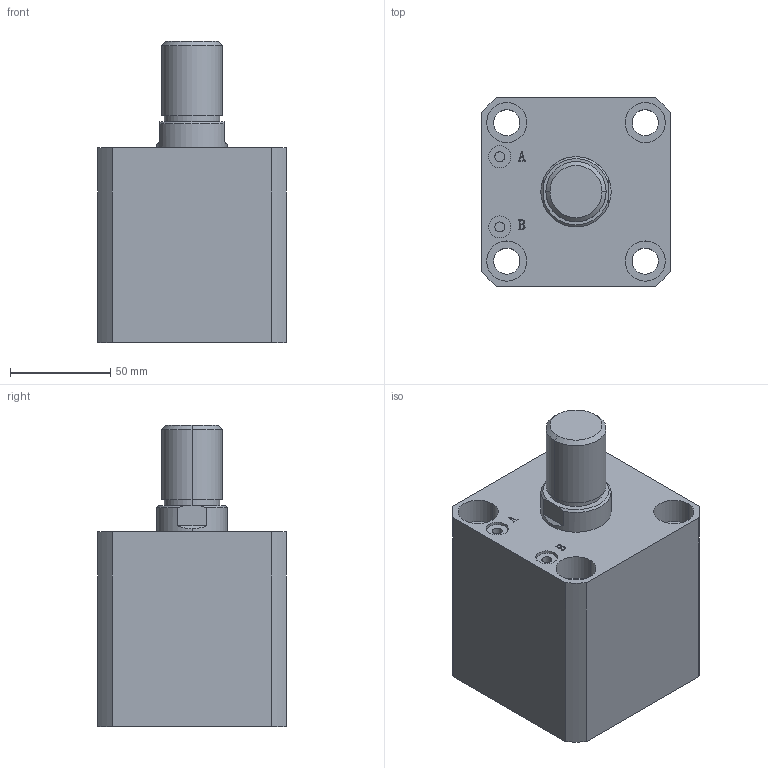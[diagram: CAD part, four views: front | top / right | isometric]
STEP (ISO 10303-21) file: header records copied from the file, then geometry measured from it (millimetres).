
FILE_DESCRIPTION (( 'STEP AP203' ), '1' );
FILE_NAME ('HTB-SDMA63-30W.STEP', '2019-10-08T01:03:15', ( '微软用户' ), ( '微软中国' ), 'SwSTEP 2.0', 'SolidWorks 2012', '' );
FILE_SCHEMA (( 'CONFIG_CONTROL_DESIGN' ));
Length unit declared in the file: millimetre
Products named in the file (3): HTB-SDMA63-30W; HTB-SDMA63-30W活塞杆; HTB-SDMA63-30掛极
Assembly tree (2 placements, depth 2):
  HTB-SDMA63-30W
    HTB-SDMA63-30掛极
    HTB-SDMA63-30W活塞杆
Bounding box: 94 x 94 x 150 mm (x, y, z)
Volume: 751080.5 mm3; surface area: 109246.3 mm2
Topology: 2 solids, 2 shells, 141 faces, 337 edges, 222 vertices
Faces by surface type: plane 67, cylinder 48, bspline 16, torus 6, cone 4
Entity records: 5176 total; most frequent: CARTESIAN_POINT 1593, ORIENTED_EDGE 674, DIRECTION 669, EDGE_CURVE 337, AXIS2_PLACEMENT_3D 242, VERTEX_POINT 222, LINE 185, VECTOR 185
